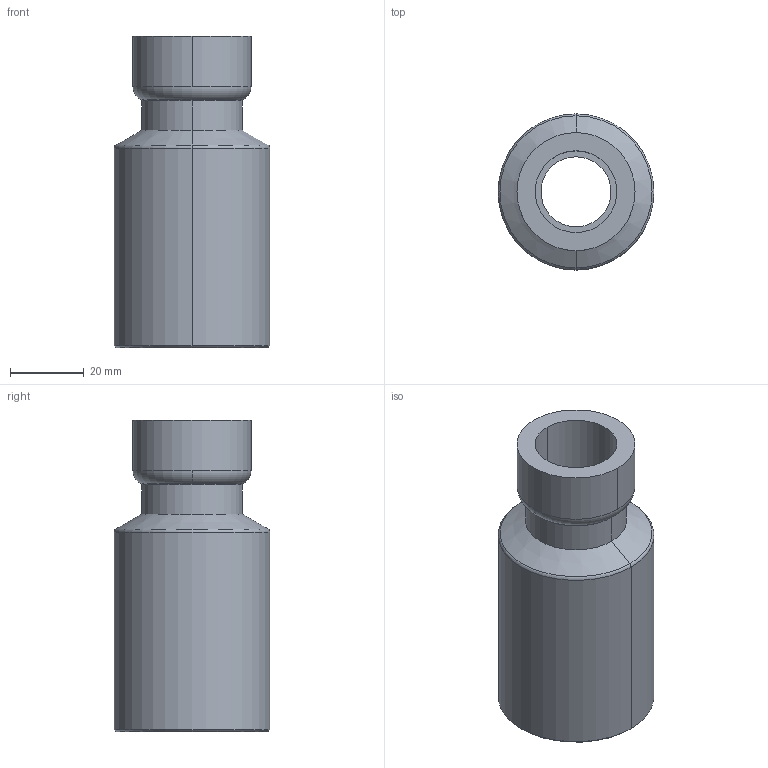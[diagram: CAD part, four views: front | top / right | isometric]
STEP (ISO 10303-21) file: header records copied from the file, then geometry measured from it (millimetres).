
FILE_DESCRIPTION(('Creo Elements/Direct Modeling STEP Export'),'2;1');
FILE_NAME('C9407_1-2_1-1-4.stp','2020-06-23T10:56:34',(''),(''),'PTC Creo Elements/Direct Modeling STEP processor for AP214 (Solid Model)','PTC Creo Elements/Direct Modeling 19.0C 15-Aug-2015 (C) Parametric Technology GmbH','');
FILE_SCHEMA(('AUTOMOTIVE_DESIGN { 1 0 10303 214 1 1 1 1 }'));
Length unit declared in the file: millimetre
Products named in the file (2): 9407_1-2_1-1-4
Assembly tree (1 placements, depth 2):
  9407_1-2_1-1-4
    9407_1-2_1-1-4
Bounding box: 42.3 x 42.3 x 84.52 mm (x, y, z)
Volume: 45276.5 mm3; surface area: 19587.5 mm2
Topology: 1 solids, 1 shells, 27 faces, 61 edges, 37 vertices
Faces by surface type: cylinder 12, cone 6, torus 6, plane 3
Entity records: 709 total; most frequent: ORIENTED_EDGE 122, DIRECTION 118, CARTESIAN_POINT 105, EDGE_CURVE 61, AXIS2_PLACEMENT_3D 50, VERTEX_POINT 37, EDGE_LOOP 30, FACE_OUTER_BOUND 27
